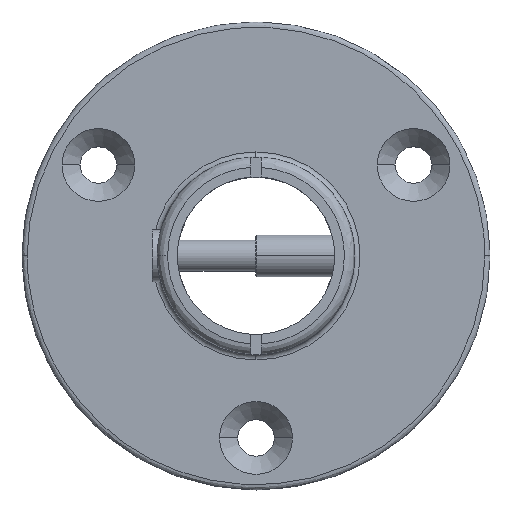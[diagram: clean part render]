
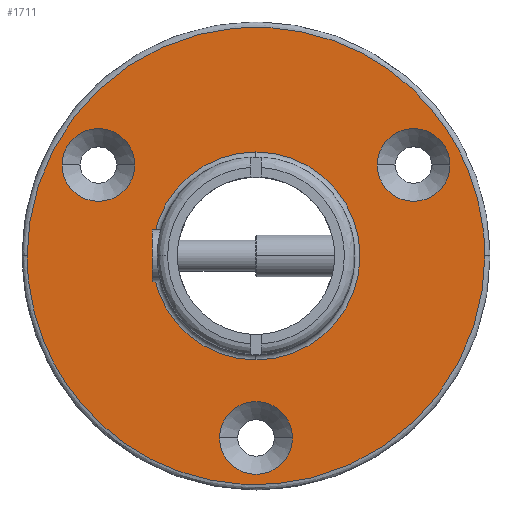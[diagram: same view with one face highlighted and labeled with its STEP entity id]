
A CAD part, top view. The second image highlights one B-rep face of the part: STEP entity #1711.
In plain terms, the highlighted planar face has unit normal (0, 0, 1).
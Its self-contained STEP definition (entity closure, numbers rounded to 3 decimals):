
#70 = ORIENTED_EDGE ( 'NONE', *, *, #2097, .T. ) ;
#110 = EDGE_CURVE ( 'NONE', #3762, #1050, #4113, .T. ) ;
#115 = AXIS2_PLACEMENT_3D ( 'NONE', #201, #4245, #2572 ) ;
#128 = CARTESIAN_POINT ( 'NONE',  ( -44., -88., 8. ) ) ;
#148 = CARTESIAN_POINT ( 'NONE',  ( 44., 0., 8. ) ) ;
#154 = VERTEX_POINT ( 'NONE', #932 ) ;
#181 = DIRECTION ( 'NONE',  ( 0., 0., 1. ) ) ;
#201 = CARTESIAN_POINT ( 'NONE',  ( 30.311, 17.5, 8. ) ) ;
#213 = DIRECTION ( 'NONE',  ( 0., 0., -1. ) ) ;
#218 = DIRECTION ( 'NONE',  ( 0., 1., 0. ) ) ;
#240 = CIRCLE ( 'NONE', #3985, 20. ) ;
#343 = EDGE_LOOP ( 'NONE', ( #70, #2557 ) ) ;
#378 = CARTESIAN_POINT ( 'NONE',  ( -7., -35., 8. ) ) ;
#484 = CARTESIAN_POINT ( 'NONE',  ( -44., 0., 8. ) ) ;
#491 = CARTESIAN_POINT ( 'NONE',  ( 0., -35., 8. ) ) ;
#599 = CARTESIAN_POINT ( 'NONE',  ( 44., 0., 8. ) ) ;
#603 = EDGE_CURVE ( 'NONE', #154, #2026, #2888, .T. ) ;
#606 = PLANE ( 'NONE',  #3700 ) ;
#634 = FACE_BOUND ( 'NONE', #2082, .T. ) ;
#714 = EDGE_LOOP ( 'NONE', ( #2954, #1073 ) ) ;
#737 = CARTESIAN_POINT ( 'NONE',  ( -37.311, 17.5, 8. ) ) ;
#794 = FACE_BOUND ( 'NONE', #1371, .T. ) ;
#854 = DIRECTION ( 'NONE',  ( 0., 0., 1. ) ) ;
#871 = DIRECTION ( 'NONE',  ( 0., 0., -1. ) ) ;
#881 = CARTESIAN_POINT ( 'NONE',  ( -30.311, 17.5, 8. ) ) ;
#932 = CARTESIAN_POINT ( 'NONE',  ( 23.311, 17.5, 8. ) ) ;
#960 = ORIENTED_EDGE ( 'NONE', *, *, #2322, .F. ) ;
#1050 = VERTEX_POINT ( 'NONE', #2795 ) ;
#1073 = ORIENTED_EDGE ( 'NONE', *, *, #603, .T. ) ;
#1126 = AXIS2_PLACEMENT_3D ( 'NONE', #2224, #213, #3247 ) ;
#1218 = DIRECTION ( 'NONE',  ( 0., 1., 0. ) ) ;
#1245 = CARTESIAN_POINT ( 'NONE',  ( -44., 0., 8. ) ) ;
#1285 = CARTESIAN_POINT ( 'NONE',  ( -44., 88., 8. ) ) ;
#1298 = VERTEX_POINT ( 'NONE', #2263 ) ;
#1371 = EDGE_LOOP ( 'NONE', ( #3072, #2371 ) ) ;
#1478 = CARTESIAN_POINT ( 'NONE',  ( 7., -35., 8. ) ) ;
#1529 = EDGE_CURVE ( 'NONE', #2857, #3927, #3046, .T. ) ;
#1543 = CIRCLE ( 'NONE', #3125, 20. ) ;
#1555 = DIRECTION ( 'NONE',  ( -1., 0., 0. ) ) ;
#1615 = CARTESIAN_POINT ( 'NONE',  ( 0., 0., 8. ) ) ;
#1711 = ADVANCED_FACE ( 'NONE', ( #634, #2981, #2771, #794, #4343 ), #606, .F. ) ;
#1736 = CIRCLE ( 'NONE', #1126, 7. ) ;
#1808 = CARTESIAN_POINT ( 'NONE',  ( 44., -88., 8. ) ) ;
#1868 = CARTESIAN_POINT ( 'NONE',  ( 0., -35., 8. ) ) ;
#2026 = VERTEX_POINT ( 'NONE', #2801 ) ;
#2082 = EDGE_LOOP ( 'NONE', ( #960, #4348 ) ) ;
#2097 = EDGE_CURVE ( 'NONE', #3442, #3883, #4020, .T. ) ;
#2209 = DIRECTION ( 'NONE',  ( 1., 0., 0. ) ) ;
#2216 = AXIS2_PLACEMENT_3D ( 'NONE', #1868, #4202, #3484 ) ;
#2224 = CARTESIAN_POINT ( 'NONE',  ( 30.311, 17.5, 8. ) ) ;
#2229 = CARTESIAN_POINT ( 'NONE',  ( 0., 0., 8. ) ) ;
#2263 = CARTESIAN_POINT ( 'NONE',  ( 0., -20., 8. ) ) ;
#2322 = EDGE_CURVE ( 'NONE', #3509, #1298, #240, .T. ) ;
#2371 = ORIENTED_EDGE ( 'NONE', *, *, #1529, .T. ) ;
#2422 = CARTESIAN_POINT ( 'NONE',  ( 0., 0., 8. ) ) ;
#2436 = EDGE_CURVE ( 'NONE', #3883, #3442, #3316, .T. ) ;
#2452 = EDGE_LOOP ( 'NONE', ( #3470, #2708 ) ) ;
#2499 = EDGE_CURVE ( 'NONE', #1050, #3762, #3364, .T. ) ;
#2557 = ORIENTED_EDGE ( 'NONE', *, *, #2436, .T. ) ;
#2572 = DIRECTION ( 'NONE',  ( 1., 0., 0. ) ) ;
#2580 = DIRECTION ( 'NONE',  ( 0., 0., -1. ) ) ;
#2591 = CARTESIAN_POINT ( 'NONE',  ( 44., 88., 8. ) ) ;
#2708 = ORIENTED_EDGE ( 'NONE', *, *, #110, .F. ) ;
#2771 = FACE_BOUND ( 'NONE', #714, .T. ) ;
#2795 = CARTESIAN_POINT ( 'NONE',  ( -44., 0., 8. ) ) ;
#2801 = CARTESIAN_POINT ( 'NONE',  ( 37.311, 17.5, 8. ) ) ;
#2857 = VERTEX_POINT ( 'NONE', #378 ) ;
#2868 = CARTESIAN_POINT ( 'NONE',  ( 0., 20., 8. ) ) ;
#2874 = DIRECTION ( 'NONE',  ( 1., 0., 0. ) ) ;
#2888 = CIRCLE ( 'NONE', #115, 7. ) ;
#2954 = ORIENTED_EDGE ( 'NONE', *, *, #3989, .T. ) ;
#2981 = FACE_BOUND ( 'NONE', #343, .T. ) ;
#3046 = CIRCLE ( 'NONE', #2216, 7. ) ;
#3072 = ORIENTED_EDGE ( 'NONE', *, *, #3239, .T. ) ;
#3125 = AXIS2_PLACEMENT_3D ( 'NONE', #2229, #854, #218 ) ;
#3239 = EDGE_CURVE ( 'NONE', #3927, #2857, #3542, .T. ) ;
#3247 = DIRECTION ( 'NONE',  ( 1., 0., 0. ) ) ;
#3316 = CIRCLE ( 'NONE', #3495, 7. ) ;
#3328 = CARTESIAN_POINT ( 'NONE',  ( 44., 0., 8. ) ) ;
#3364 =( BOUNDED_CURVE ( )  B_SPLINE_CURVE ( 3, ( #1245, #1285, #2591, #599 ),
 .UNSPECIFIED., .F., .F. ) 
 B_SPLINE_CURVE_WITH_KNOTS ( ( 4, 4 ),
 ( 0., 1. ),
 .UNSPECIFIED. ) 
 CURVE ( )  GEOMETRIC_REPRESENTATION_ITEM ( )  RATIONAL_B_SPLINE_CURVE ( ( 1., 0.333, 0.333, 1. ) ) 
 REPRESENTATION_ITEM ( '' )  );
#3442 = VERTEX_POINT ( 'NONE', #4206 ) ;
#3470 = ORIENTED_EDGE ( 'NONE', *, *, #2499, .F. ) ;
#3484 = DIRECTION ( 'NONE',  ( 1., 0., 0. ) ) ;
#3495 = AXIS2_PLACEMENT_3D ( 'NONE', #881, #2580, #3921 ) ;
#3509 = VERTEX_POINT ( 'NONE', #2868 ) ;
#3542 = CIRCLE ( 'NONE', #4295, 7. ) ;
#3553 = EDGE_CURVE ( 'NONE', #1298, #3509, #1543, .T. ) ;
#3563 = DIRECTION ( 'NONE',  ( 0., 0., -1. ) ) ;
#3700 = AXIS2_PLACEMENT_3D ( 'NONE', #1615, #3563, #1555 ) ;
#3762 = VERTEX_POINT ( 'NONE', #3328 ) ;
#3867 = CARTESIAN_POINT ( 'NONE',  ( -30.311, 17.5, 8. ) ) ;
#3883 = VERTEX_POINT ( 'NONE', #737 ) ;
#3904 = AXIS2_PLACEMENT_3D ( 'NONE', #3867, #4212, #2209 ) ;
#3921 = DIRECTION ( 'NONE',  ( 1., 0., 0. ) ) ;
#3927 = VERTEX_POINT ( 'NONE', #1478 ) ;
#3985 = AXIS2_PLACEMENT_3D ( 'NONE', #2422, #181, #1218 ) ;
#3989 = EDGE_CURVE ( 'NONE', #2026, #154, #1736, .T. ) ;
#4020 = CIRCLE ( 'NONE', #3904, 7. ) ;
#4113 =( BOUNDED_CURVE ( )  B_SPLINE_CURVE ( 3, ( #148, #1808, #128, #484 ),
 .UNSPECIFIED., .F., .T. ) 
 B_SPLINE_CURVE_WITH_KNOTS ( ( 4, 4 ),
 ( 0., 1. ),
 .UNSPECIFIED. ) 
 CURVE ( )  GEOMETRIC_REPRESENTATION_ITEM ( )  RATIONAL_B_SPLINE_CURVE ( ( 1., 0.333, 0.333, 1. ) ) 
 REPRESENTATION_ITEM ( '' )  );
#4202 = DIRECTION ( 'NONE',  ( 0., 0., -1. ) ) ;
#4206 = CARTESIAN_POINT ( 'NONE',  ( -23.311, 17.5, 8. ) ) ;
#4212 = DIRECTION ( 'NONE',  ( 0., 0., -1. ) ) ;
#4245 = DIRECTION ( 'NONE',  ( 0., 0., -1. ) ) ;
#4295 = AXIS2_PLACEMENT_3D ( 'NONE', #491, #871, #2874 ) ;
#4343 = FACE_OUTER_BOUND ( 'NONE', #2452, .T. ) ;
#4348 = ORIENTED_EDGE ( 'NONE', *, *, #3553, .F. ) ;
